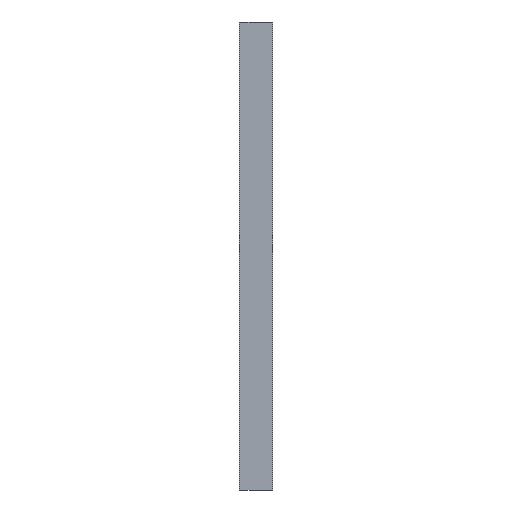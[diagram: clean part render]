
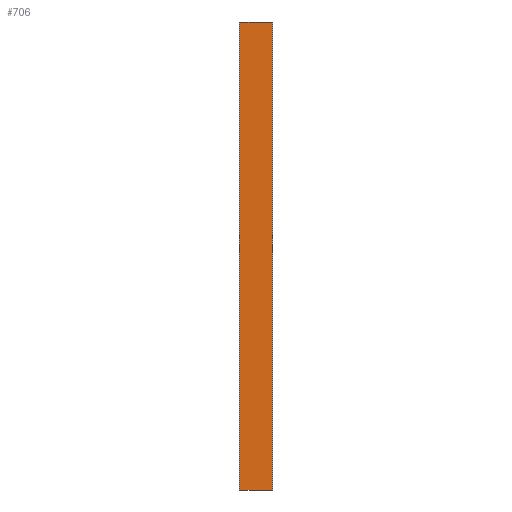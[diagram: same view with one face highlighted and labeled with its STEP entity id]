
A CAD part, left-side view. The second image highlights one B-rep face of the part: STEP entity #706.
In plain terms, the highlighted planar face has unit normal (-1, 0, 0).
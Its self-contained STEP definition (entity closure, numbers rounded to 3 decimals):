
#12 = CARTESIAN_POINT ( 'NONE',  ( -23.5, 0.5, -1136. ) ) ;
#30 = LINE ( 'NONE', #812, #453 ) ;
#106 = ORIENTED_EDGE ( 'NONE', *, *, #1239, .F. ) ;
#210 = LINE ( 'NONE', #1373, #329 ) ;
#214 = DIRECTION ( 'NONE',  ( -1., 0., 0. ) ) ;
#229 = VERTEX_POINT ( 'NONE', #795 ) ;
#265 = DIRECTION ( 'NONE',  ( 0., -1., 0. ) ) ;
#305 = VECTOR ( 'NONE', #265, 1000. ) ;
#329 = VECTOR ( 'NONE', #392, 1000. ) ;
#350 = ORIENTED_EDGE ( 'NONE', *, *, #498, .T. ) ;
#392 = DIRECTION ( 'NONE',  ( 0., 0., 1. ) ) ;
#453 = VECTOR ( 'NONE', #509, 1000. ) ;
#456 = ORIENTED_EDGE ( 'NONE', *, *, #864, .F. ) ;
#457 = LINE ( 'NONE', #1009, #305 ) ;
#459 = ORIENTED_EDGE ( 'NONE', *, *, #890, .T. ) ;
#474 = CARTESIAN_POINT ( 'NONE',  ( -23.5, 79.5, 0. ) ) ;
#498 = EDGE_CURVE ( 'NONE', #500, #1104, #457, .T. ) ;
#500 = VERTEX_POINT ( 'NONE', #667 ) ;
#509 = DIRECTION ( 'NONE',  ( 0., -1., 0. ) ) ;
#637 = DIRECTION ( 'NONE',  ( 0., 0., 1. ) ) ;
#667 = CARTESIAN_POINT ( 'NONE',  ( -23.5, 79.5, -1136. ) ) ;
#706 = ADVANCED_FACE ( 'NONE', ( #1551 ), #842, .T. ) ;
#795 = CARTESIAN_POINT ( 'NONE',  ( -23.5, 0.5, 0. ) ) ;
#812 = CARTESIAN_POINT ( 'NONE',  ( -23.5, 79.5, 0. ) ) ;
#842 = PLANE ( 'NONE',  #1566 ) ;
#864 = EDGE_CURVE ( 'NONE', #500, #1343, #210, .T. ) ;
#890 = EDGE_CURVE ( 'NONE', #1104, #229, #1120, .T. ) ;
#960 = CARTESIAN_POINT ( 'NONE',  ( -23.5, 79.5, -1136. ) ) ;
#1009 = CARTESIAN_POINT ( 'NONE',  ( -23.5, 79.5, -1136. ) ) ;
#1104 = VERTEX_POINT ( 'NONE', #1547 ) ;
#1120 = LINE ( 'NONE', #12, #1136 ) ;
#1136 = VECTOR ( 'NONE', #637, 1000. ) ;
#1148 = EDGE_LOOP ( 'NONE', ( #106, #456, #350, #459 ) ) ;
#1239 = EDGE_CURVE ( 'NONE', #1343, #229, #30, .T. ) ;
#1343 = VERTEX_POINT ( 'NONE', #474 ) ;
#1373 = CARTESIAN_POINT ( 'NONE',  ( -23.5, 79.5, -1136. ) ) ;
#1547 = CARTESIAN_POINT ( 'NONE',  ( -23.5, 0.5, -1136. ) ) ;
#1551 = FACE_OUTER_BOUND ( 'NONE', #1148, .T. ) ;
#1566 = AXIS2_PLACEMENT_3D ( 'NONE', #960, #214, #1567 ) ;
#1567 = DIRECTION ( 'NONE',  ( 0., 0., 1. ) ) ;
